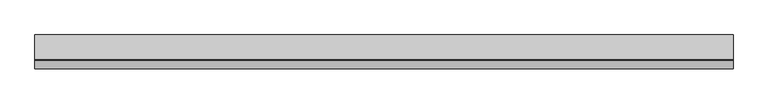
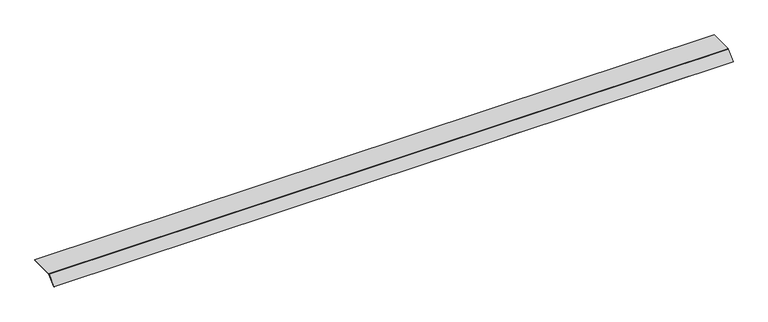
"""IFC4 building model written with IfcOpenShell, lengths in millimetres: proxy geometry, Electrical_Installation_Hager_Blank-Cover-800mm-Single-Sided-Height-70mm : Electrical_Installation_Hager_Blank-Cover-800mm-Single-Sided-Height-70mm."""

from ifc_helpers import new_model, si_unit, point, frame, frame_2d, origin, place, context, project, spatial, polyline, circle_curve, trimmed, segment, composite_curve, outline, extrude, source, transform, mapped, element, save


def electrical_fixtures_4cfbbe80(model_context):
    return source(origin(), model_context, "Body", "SweptSolid", [
        extrude(outline(composite_curve([segment(polyline([(100.0, 40.5), (100.0, 37.5), (-99.8229541, 37.5)]), True, "CONTINUOUS"), segment(trimmed(circle_curve(frame_2d((-99.8229541, 36.0725733)), 1.4274267), [point((-99.8229541, 37.5))], [point((-100.8322972, 37.0819164))], True, "CARTESIAN"), True, "CONTINUOUS"), segment(polyline([(-100.8322972, 37.0819164), (-168.6627596, -30.7485461), (-170.78408, -28.6272257), (-102.8206472, 39.336207)]), True, "CONTINUOUS"), segment(trimmed(circle_curve(frame_2d((-100.0110025, 36.5265623)), 3.9734377), [point((-102.8206472, 39.336207))], [point((-100.0110025, 40.5))], False, "CARTESIAN"), True, "CONTINUOUS"), segment(polyline([(-100.0110025, 40.5), (100.0, 40.5)]), True, "CONTINUOUS")], self_intersect=False)), frame((0.0, 0.0, 0.0), z_axis=(1.0, 0.0, 0.0), x_axis=(0.0, 1.0, 0.0)), (0.0, 0.0, 1.0), 5611.6956759),
    ])


if __name__ == "__main__":
    model = new_model("IFC4")
    model_context = context("Model", 3, world=origin())
    ifc_project = project(units=[si_unit("LENGTHUNIT", "METRE", prefix="MILLI")], contexts=[model_context])
    site = spatial("IfcSite", under=ifc_project)
    building = spatial("IfcBuilding", under=site)
    placement = place(None, origin())
    electrical_fixtures_shape = electrical_fixtures_4cfbbe80(model_context)
    element("IfcBuildingElementProxy", 1, Name="Electrical_Installation_Hager_Blank-Cover-800mm-Single-Sided-Height-70mm : Electrical_Installation_Hager_Blank-Cover-800mm-Single-Sided-Height-70mm", ObjectType="Electrical_Installation_Hager_Blank-Cover-800mm-Single-Sided-Height-70mm : Electrical_Installation_Hager_Blank-Cover-800mm-Single-Sided-Height-70mm", at=placement, inside=building, context=model_context, shape_type="MappedRepresentation", body=[
        mapped(electrical_fixtures_shape, transform((0.0, 0.0, 0.0), x_axis=(1.0, 0.0, 0.0), y_axis=(0.0, 1.0, 0.0), z_axis=(0.0, 0.0, 1.0))),
    ])
    save(model, "model.ifc")
